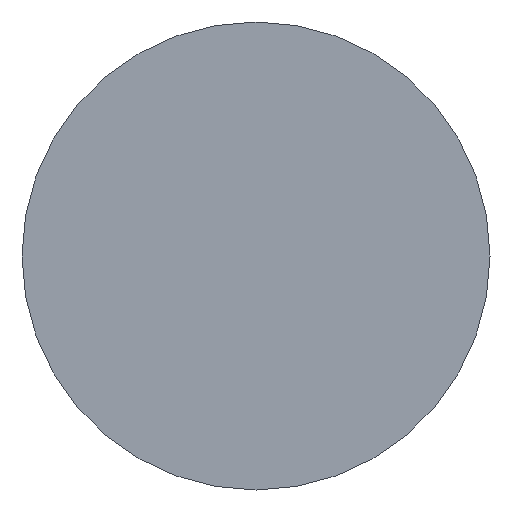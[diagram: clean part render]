
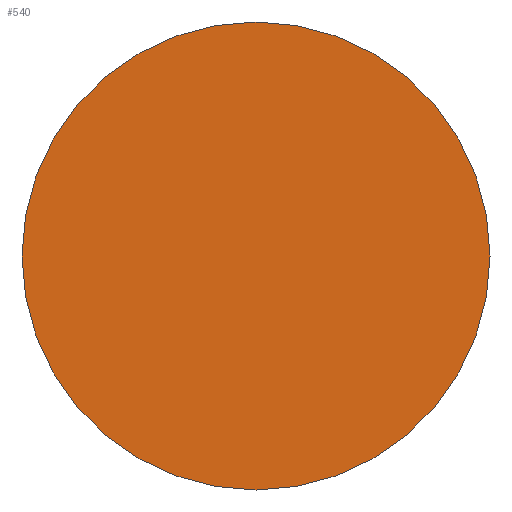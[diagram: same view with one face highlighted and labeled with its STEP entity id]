
A CAD part, front view. The second image highlights one B-rep face of the part: STEP entity #540.
In plain terms, the highlighted planar face has unit normal (0, -1, 0).
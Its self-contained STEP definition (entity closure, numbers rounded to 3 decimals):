
#39 = CARTESIAN_POINT ( 'NONE',  ( 0., -255., 0. ) ) ;
#81 = VERTEX_POINT ( 'NONE', #496 ) ;
#125 = DIRECTION ( 'NONE',  ( 0., -1., 0. ) ) ;
#132 = DIRECTION ( 'NONE',  ( 0., 0., -1. ) ) ;
#136 = CARTESIAN_POINT ( 'NONE',  ( 0., -255., -95. ) ) ;
#151 = DIRECTION ( 'NONE',  ( 0., -1., 0. ) ) ;
#177 = ORIENTED_EDGE ( 'NONE', *, *, #520, .T. ) ;
#212 = FACE_OUTER_BOUND ( 'NONE', #574, .T. ) ;
#360 = DIRECTION ( 'NONE',  ( 0., -1., 0. ) ) ;
#387 = CARTESIAN_POINT ( 'NONE',  ( 0., -255., 0. ) ) ;
#406 = PLANE ( 'NONE',  #586 ) ;
#410 = ORIENTED_EDGE ( 'NONE', *, *, #424, .T. ) ;
#419 = AXIS2_PLACEMENT_3D ( 'NONE', #387, #151, #534 ) ;
#424 = EDGE_CURVE ( 'NONE', #81, #581, #461, .T. ) ;
#461 = CIRCLE ( 'NONE', #419, 95. ) ;
#496 = CARTESIAN_POINT ( 'NONE',  ( 0., -255., 95. ) ) ;
#505 = DIRECTION ( 'NONE',  ( 0., 0., -1. ) ) ;
#509 = CARTESIAN_POINT ( 'NONE',  ( 0., -255., 0. ) ) ;
#520 = EDGE_CURVE ( 'NONE', #581, #81, #577, .T. ) ;
#534 = DIRECTION ( 'NONE',  ( 0., 0., -1. ) ) ;
#540 = ADVANCED_FACE ( 'NONE', ( #212 ), #406, .T. ) ;
#569 = AXIS2_PLACEMENT_3D ( 'NONE', #39, #360, #132 ) ;
#574 = EDGE_LOOP ( 'NONE', ( #410, #177 ) ) ;
#577 = CIRCLE ( 'NONE', #569, 95. ) ;
#581 = VERTEX_POINT ( 'NONE', #136 ) ;
#586 = AXIS2_PLACEMENT_3D ( 'NONE', #509, #125, #505 ) ;
